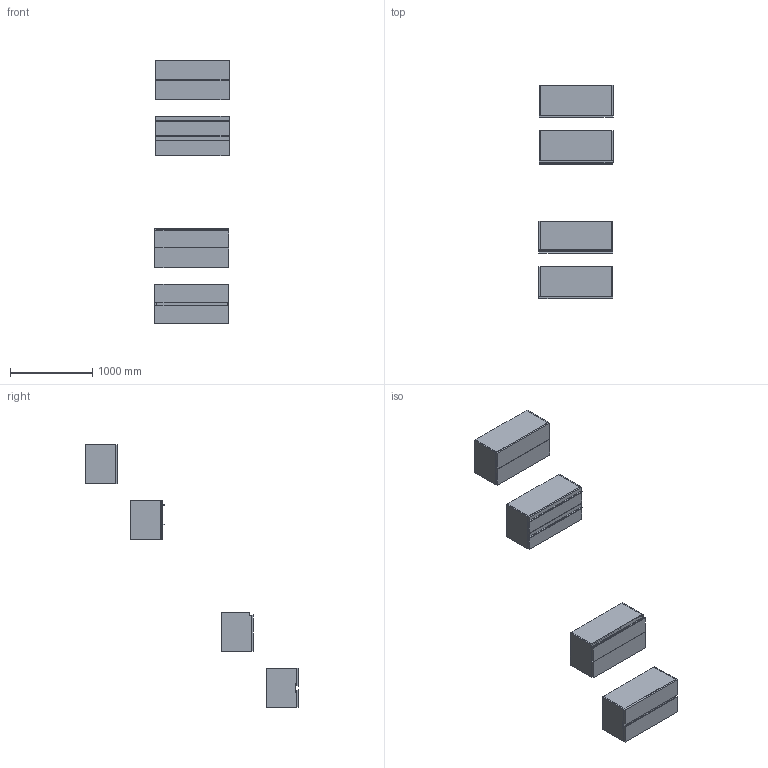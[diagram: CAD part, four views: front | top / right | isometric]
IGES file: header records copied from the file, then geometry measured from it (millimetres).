
Start section: Data from Parasolid IGES Translator 19.0.9, Copyright(c) 2006 Siemens PL M Software. All Rights Reserved.
Global section: file name: noorth-SI-H 48 D 38,8 W 90_8426.igs; native system: By Siemens PLM Incorporated; preprocessor: XPlus GENERIC/IGES 19.0.9; author: Noname; organization: Noname; date: 20200601.103001; units: metre
Bounding box: 903.67 x 2585.1 x 3199.21 mm (x, y, z)
Volume: 99656947.5 mm3; surface area: 15597254.6 mm2
Topology: 33 solids, 33 shells, 318 faces, 700 edges, 428 vertices
Faces by surface type: plane 230, extrusion 36, bspline 32, cylinder 20
